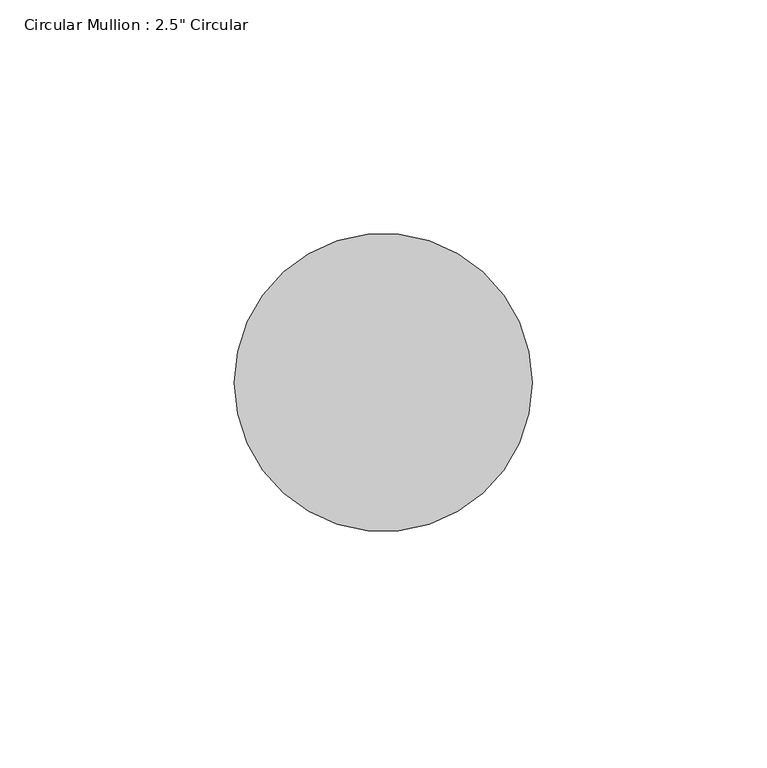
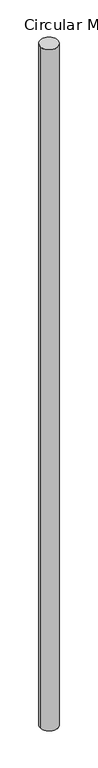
"""IFC4 building model written with IfcOpenShell, lengths in millimetres: member geometry."""

import ifcopenshell
import ifcopenshell.guid

model = None  # the IFC model being written
_history = None  # IfcOwnerHistory: only IFC2X3 demands one
_inside = {}  # id of a spatial element -> (the spatial element, [elements in it])
_under = {}  # id of a project, library or spatial element -> (it, [spatial elements below it])
_declared = {}  # id of a project -> (the project, [libraries it declares])
_typed = {}  # id of a type object -> (the type object, [elements of that type])
_made_of = {}  # id of a material, layer set ... -> (it, [elements and type objects made of it])


def new_model(schema):
    """Start an empty IFC model of exactly this schema.

    Asked for "IFC4X3", IfcOpenShell would pick the latest addendum, in which some entities
    have other attributes; the version numbers below select the first issue.
    IFC2X3 requires an IfcOwnerHistory on every rooted entity: one is made here for all.
    """
    global model, _history
    if schema == "IFC4X3":
        model = ifcopenshell.file(schema_version=(4, 3, 0, 0))
    else:
        model = ifcopenshell.file(schema=schema)
    _inside.clear()
    _under.clear()
    _declared.clear()
    _typed.clear()
    _made_of.clear()
    _history = None
    if model.schema == "IFC2X3":
        org = make("IfcOrganization", Name="unknown")
        user = make(
            "IfcPersonAndOrganization",
            ThePerson=make("IfcPerson", FamilyName="unknown"),
            TheOrganization=org,
        )
        app = make(
            "IfcApplication",
            ApplicationDeveloper=org,
            Version="unknown",
            ApplicationFullName="unknown",
            ApplicationIdentifier="unknown",
        )
        _history = make(
            "IfcOwnerHistory",
            OwningUser=user,
            OwningApplication=app,
            ChangeAction="ADDED",
            CreationDate=0,
        )
    return model


def make(cls, **values):
    """One entity of the class cls with the attributes given. An attribute that is None is left unset."""
    return model.create_entity(
        cls, **{name: value for name, value in values.items() if value is not None}
    )


def rooted(cls, **values):
    """An entity with a GlobalId (a new one), such as an element, a storey or a relation."""
    return make(cls, GlobalId=ifcopenshell.guid.new(), OwnerHistory=_history, **values)


def si_unit(unit_type, name, prefix=None):
    """IfcSIUnit, for example si_unit("LENGTHUNIT", "METRE", prefix="MILLI")."""
    return make("IfcSIUnit", UnitType=unit_type, Prefix=prefix, Name=name)


def assignment(units):
    """IfcUnitAssignment: the units of a project."""
    return None if units is None else make("IfcUnitAssignment", Units=units)


def point(xyz):
    """IfcCartesianPoint."""
    return None if xyz is None else make("IfcCartesianPoint", Coordinates=xyz)


def direction(xyz):
    """IfcDirection."""
    return None if xyz is None else make("IfcDirection", DirectionRatios=xyz)


def frame(location, z_axis=None, x_axis=None):
    """IfcAxis2Placement3D, a coordinate frame: its origin and axes. An axis left out is left unset."""
    return make(
        "IfcAxis2Placement3D",
        Location=point(location),
        Axis=direction(z_axis),
        RefDirection=direction(x_axis),
    )


def origin():
    """The frame at (0, 0, 0) with its axes left unset."""
    return frame((0.0, 0.0, 0.0))


def origin_with_axes():
    """The frame at (0, 0, 0) with the z axis (0, 0, 1) and the x axis (1, 0, 0) written out."""
    return frame((0.0, 0.0, 0.0), z_axis=(0.0, 0.0, 1.0), x_axis=(1.0, 0.0, 0.0))


def place(relative_to, where):
    """IfcLocalPlacement: puts the frame where relative to a parent placement (None: the world)."""
    return make(
        "IfcLocalPlacement", PlacementRelTo=relative_to, RelativePlacement=where
    )


def context(
    kind, dimensions, precision=None, world=None, true_north=None, identifier=None
):
    """IfcGeometricRepresentationContext, for example the 3D "Model" context."""
    return make(
        "IfcGeometricRepresentationContext",
        ContextIdentifier=identifier,
        ContextType=kind,
        CoordinateSpaceDimension=dimensions,
        Precision=precision,
        WorldCoordinateSystem=world,
        TrueNorth=true_north,
    )


def project(units=None, contexts=None):
    """IfcProject with its units and contexts."""
    return rooted(
        "IfcProject",
        Name="project",
        RepresentationContexts=contexts,
        UnitsInContext=assignment(units),
    )


def spatial(cls, under=None, at=None, **own):
    """A site, building, storey or space (cls), placed at a placement, below another one or the project."""
    s = rooted(cls, ObjectPlacement=at, **own)
    if under is not None:
        _under.setdefault(under.id(), (under, []))[1].append(s)
    return s


def circle_curve(where, radius):
    """IfcCircle in the frame where."""
    return make("IfcCircle", Position=where, Radius=radius)


def ellipse_curve(where, semi_axis1, semi_axis2):
    """IfcEllipse in the frame where."""
    return make(
        "IfcEllipse", Position=where, SemiAxis1=semi_axis1, SemiAxis2=semi_axis2
    )


def shape(context_of_items, identifier, shape_type, items):
    """IfcShapeRepresentation: the items that make up one representation, for example the "Body"."""
    return make(
        "IfcShapeRepresentation",
        ContextOfItems=context_of_items,
        RepresentationIdentifier=identifier,
        RepresentationType=shape_type,
        Items=items,
    )


def source(mapping_origin, context_of_items, identifier, shape_type, items):
    """IfcRepresentationMap: a shape defined once, which mapped items show again and again."""
    return make(
        "IfcRepresentationMap",
        MappingOrigin=mapping_origin,
        MappedRepresentation=shape(context_of_items, identifier, shape_type, items),
    )


def transform(
    local_origin,
    x_axis=None,
    y_axis=None,
    z_axis=None,
    scale=None,
    scale2=None,
    scale3=None,
    uniform=True,
):
    """IfcCartesianTransformationOperator3D, or its non-uniform kind. x_axis, y_axis, z_axis: its Axis1, 2, 3."""
    if uniform:
        return make(
            "IfcCartesianTransformationOperator3D",
            Axis1=direction(x_axis),
            Axis2=direction(y_axis),
            LocalOrigin=point(local_origin),
            Scale=scale,
            Axis3=direction(z_axis),
        )
    return make(
        "IfcCartesianTransformationOperator3DnonUniform",
        Axis1=direction(x_axis),
        Axis2=direction(y_axis),
        LocalOrigin=point(local_origin),
        Scale=scale,
        Axis3=direction(z_axis),
        Scale2=scale2,
        Scale3=scale3,
    )


def mapped(mapping_source, mapping_target):
    """IfcMappedItem: shows the shape of a source again, moved by a transform."""
    return make(
        "IfcMappedItem", MappingSource=mapping_source, MappingTarget=mapping_target
    )


def made_of(thing, what):
    """Note that an element or type object is made of a material, layer set ...; save() writes the relation."""
    if what is not None:
        _made_of.setdefault(what.id(), (what, []))[1].append(thing)
    return thing


def element(
    cls,
    number,
    at=None,
    inside=None,
    cuts=None,
    type_object=None,
    material=None,
    context=None,
    identifier="Body",
    shape_type=None,
    held_by="IfcProductDefinitionShape",
    body=None,
    shapes=None,
    **own,
):
    """One element of the class cls, such as IfcWall. Its Tag is "e" and its number.

    at: its placement. inside: the storey or other place that contains it. cuts: it is an
    opening in that element (IfcRelVoidsElement). A single representation is given by context,
    identifier, shape_type and body (its items); several are given by shapes. held_by: the class
    of the entity that holds the representations. save() writes the other relations.
    """
    e = rooted(cls, Tag="e%d" % number, ObjectPlacement=at, **own)
    if body is not None:
        shapes = [shape(context, identifier, shape_type, body)]
    if shapes is not None:
        e.Representation = make(held_by, Representations=shapes)
    if inside is not None:
        _inside.setdefault(inside.id(), (inside, []))[1].append(e)
    if cuts is not None:
        rooted(
            "IfcRelVoidsElement", RelatingBuildingElement=cuts, RelatedOpeningElement=e
        )
    if type_object is not None:
        _typed.setdefault(type_object.id(), (type_object, []))[1].append(e)
    return made_of(e, material)


def aggregate(whole, parts):
    """IfcRelAggregates: a whole, such as a stair, and the parts it consists of."""
    return rooted("IfcRelAggregates", RelatingObject=whole, RelatedObjects=parts)


def save(model, path):
    """Write the relations noted so far, then the file.

    IfcRelAggregates (storeys below a building ...), IfcRelContainedInSpatialStructure (elements
    in a storey), IfcRelDefinesByType, IfcRelAssociatesMaterial and IfcRelDeclares: one each for
    every whole, place, type object, material and project.
    """
    for whole, parts in _under.values():
        aggregate(whole, parts)
    for where, things in _inside.values():
        rooted(
            "IfcRelContainedInSpatialStructure",
            RelatedElements=things,
            RelatingStructure=where,
        )
    for kind, things in _typed.values():
        rooted("IfcRelDefinesByType", RelatedObjects=things, RelatingType=kind)
    for what, things in _made_of.values():
        rooted("IfcRelAssociatesMaterial", RelatedObjects=things, RelatingMaterial=what)
    for by, libraries in _declared.values():
        rooted("IfcRelDeclares", RelatingContext=by, RelatedDefinitions=libraries)
    model.write(path)


def plane_surface(at):
    """IfcPlane: the flat surface through the origin of the frame at, square to its z axis."""
    return make("IfcPlane", Position=at)


def cylinder_surface(at, radius):
    """IfcCylindricalSurface: all points at the distance radius from the z axis of the frame at."""
    return make("IfcCylindricalSurface", Position=at, Radius=radius)


def advanced_brep(points, edges, surfaces, faces):
    """IfcAdvancedBrep: a solid bounded by faces that lie on surfaces and meet in shared edges.

    An edge is (start, end): straight between two places in points (the first is 0);
    or (start, end, curve); or (start, end, curve, False) where it runs against its curve.
    A face is (place in surfaces, loops), or (place, loops, False) where it looks against
    its surface's normal. A loop lists edges by number (the first is 1), with a minus sign
    where the edge is run from its end to its start. The first loop is the outer one.
    """
    corners = [point(p) for p in points]
    vertices = [make("IfcVertexPoint", VertexGeometry=c) for c in corners]
    made = []
    for start, end, *more in edges:
        made.append(
            make(
                "IfcEdgeCurve",
                EdgeStart=vertices[start],
                EdgeEnd=vertices[end],
                EdgeGeometry=more[0] if more else make("IfcPolyline", Points=[corners[start], corners[end]]),
                SameSense=more[1] if len(more) > 1 else True,
            )
        )
    hull = []
    for where, loops, *sense in faces:
        bounds = []
        for j, loop in enumerate(loops):
            ring = [make("IfcOrientedEdge", EdgeElement=made[abs(k) - 1], Orientation=k > 0) for k in loop]
            bounds.append(
                make(
                    "IfcFaceOuterBound" if j == 0 else "IfcFaceBound",
                    Bound=make("IfcEdgeLoop", EdgeList=ring),
                    Orientation=True,
                )
            )
        hull.append(make("IfcAdvancedFace", Bounds=bounds, FaceSurface=surfaces[where], SameSense=sense[0] if sense else True))
    return make("IfcAdvancedBrep", Outer=make("IfcClosedShell", CfsFaces=hull))


def member_c3c220a6(model_context):
    return source(origin(), model_context, "Body", "AdvancedBrep", [
        advanced_brep(
        [(31.75, 0.0, -2559.0584096), (-31.75, 0.0, -2559.0584096), (-31.75, 0.0, -0.3282839), (31.75, 0.0, 0.3282839)],
        [
            (0, 1, circle_curve(frame((0.0, 0.0, -2559.0584096), z_axis=(0.0, 0.0, -1.0), x_axis=(1.0, 0.0, 0.0)), 31.75)),
            (1, 0, circle_curve(frame((0.0, 0.0, -2559.0584096), z_axis=(0.0, 0.0, -1.0), x_axis=(1.0, 0.0, 0.0)), 31.75)),
            (2, 3, ellipse_curve(frame((0.0, 0.0, 0.0), z_axis=(0.010321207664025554, 0.058802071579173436, -0.9982163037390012), x_axis=(0.1725732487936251, 0.9831857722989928, 0.05970101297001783)), 31.8067336, 31.75)),
            (3, 0),
            (1, 2),
            (3, 2, ellipse_curve(frame((0.0, 0.0, 0.0), z_axis=(0.010321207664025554, 0.058802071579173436, -0.9982163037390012), x_axis=(0.1725732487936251, 0.9831857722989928, 0.05970101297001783)), 31.8067336, 31.75)),
        ],
        [
            plane_surface(frame((0.0, -31.75, -2559.0584096), z_axis=(0.0, 0.0, -1.0), x_axis=(-1.0, 0.0, 0.0))),
            cylinder_surface(origin_with_axes(), 31.75),
            plane_surface(frame((300.2105078, -52.6943169, 0.0), z_axis=(-0.010321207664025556, -0.05880207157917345, 0.9982163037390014), x_axis=(-0.17257324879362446, -0.9831857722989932, -0.05970101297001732))),
        ],
        [
            (0, [[1, 2]]),
            (1, [[3, 4, -2, 5]]),
            (1, [[6, -5, -1, -4]]),
            (2, [[-3, -6]]),
        ],
    ),
    ])


if __name__ == "__main__":
    model = new_model("IFC4")
    model_context = context("Model", 3, world=origin())
    ifc_project = project(units=[si_unit("LENGTHUNIT", "METRE", prefix="MILLI")], contexts=[model_context])
    site = spatial("IfcSite", under=ifc_project)
    building = spatial("IfcBuilding", under=site)
    placement = place(None, origin())
    member_shape = member_c3c220a6(model_context)
    element("IfcMember", 1, ObjectType="Circular Mullion : 2.5\" Circular", at=placement, inside=building, context=model_context, shape_type="MappedRepresentation", body=[
        mapped(member_shape, transform((0.0, 0.0, 0.0), x_axis=(1.0, 0.0, 0.0), y_axis=(0.0, 1.0, 0.0), z_axis=(0.0, 0.0, 1.0))),
    ])
    save(model, "model.ifc")
